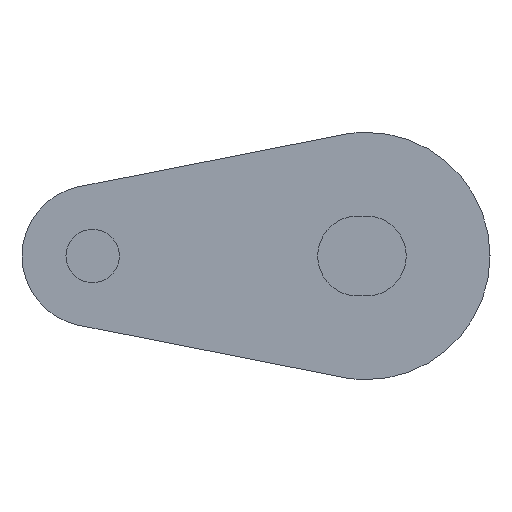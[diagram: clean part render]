
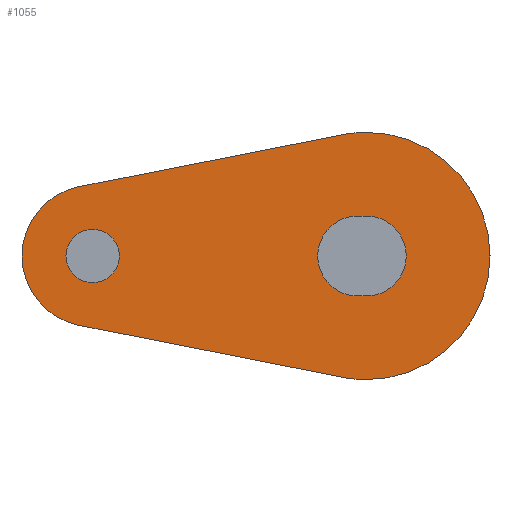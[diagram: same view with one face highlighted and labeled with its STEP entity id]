
A CAD part, left-side view. The second image highlights one B-rep face of the part: STEP entity #1055.
In plain terms, the highlighted planar face has unit normal (-1, 0, 0).
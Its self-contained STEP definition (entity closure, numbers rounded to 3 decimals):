
#21 = VECTOR ( 'NONE', #784, 1000. ) ;
#28 = CIRCLE ( 'NONE', #107, 2.26 ) ;
#32 = LINE ( 'NONE', #785, #21 ) ;
#62 = FACE_OUTER_BOUND ( 'NONE', #403, .T. ) ;
#67 = FACE_BOUND ( 'NONE', #381, .T. ) ;
#68 = FACE_BOUND ( 'NONE', #420, .T. ) ;
#107 = AXIS2_PLACEMENT_3D ( 'NONE', #811, #802, #803 ) ;
#131 = EDGE_CURVE ( 'NONE', #857, #902, #552, .T. ) ;
#134 = AXIS2_PLACEMENT_3D ( 'NONE', #973, #977, #976 ) ;
#137 = EDGE_CURVE ( 'NONE', #912, #904, #546, .T. ) ;
#138 = AXIS2_PLACEMENT_3D ( 'NONE', #894, #878, #877 ) ;
#148 = EDGE_CURVE ( 'NONE', #904, #1028, #537, .T. ) ;
#150 = AXIS2_PLACEMENT_3D ( 'NONE', #1008, #1009, #1010 ) ;
#154 = EDGE_CURVE ( 'NONE', #1028, #1030, #557, .T. ) ;
#170 = EDGE_CURVE ( 'NONE', #888, #912, #515, .T. ) ;
#184 = EDGE_CURVE ( 'NONE', #1030, #925, #499, .T. ) ;
#185 = EDGE_CURVE ( 'NONE', #913, #890, #500, .T. ) ;
#188 = EDGE_CURVE ( 'NONE', #890, #857, #495, .T. ) ;
#201 = EDGE_CURVE ( 'NONE', #946, #908, #481, .T. ) ;
#202 = AXIS2_PLACEMENT_3D ( 'NONE', #934, #948, #947 ) ;
#203 = EDGE_CURVE ( 'NONE', #908, #946, #479, .T. ) ;
#213 = AXIS2_PLACEMENT_3D ( 'NONE', #645, #644, #615 ) ;
#227 = AXIS2_PLACEMENT_3D ( 'NONE', #1003, #1002, #1001 ) ;
#238 = EDGE_CURVE ( 'NONE', #902, #913, #28, .T. ) ;
#244 = AXIS2_PLACEMENT_3D ( 'NONE', #1023, #1005, #1007 ) ;
#252 = EDGE_CURVE ( 'NONE', #925, #888, #32, .T. ) ;
#260 = AXIS2_PLACEMENT_3D ( 'NONE', #1000, #851, #850 ) ;
#338 = ORIENTED_EDGE ( 'NONE', *, *, #131, .T. ) ;
#381 = EDGE_LOOP ( 'NONE', ( #463, #543 ) ) ;
#403 = EDGE_LOOP ( 'NONE', ( #469, #453, #467, #468, #452, #569 ) ) ;
#420 = EDGE_LOOP ( 'NONE', ( #487, #338, #454, #525 ) ) ;
#452 = ORIENTED_EDGE ( 'NONE', *, *, #170, .F. ) ;
#453 = ORIENTED_EDGE ( 'NONE', *, *, #154, .F. ) ;
#454 = ORIENTED_EDGE ( 'NONE', *, *, #238, .T. ) ;
#463 = ORIENTED_EDGE ( 'NONE', *, *, #201, .T. ) ;
#467 = ORIENTED_EDGE ( 'NONE', *, *, #148, .F. ) ;
#468 = ORIENTED_EDGE ( 'NONE', *, *, #137, .F. ) ;
#469 = ORIENTED_EDGE ( 'NONE', *, *, #184, .F. ) ;
#479 = CIRCLE ( 'NONE', #150, 1.51 ) ;
#481 = CIRCLE ( 'NONE', #244, 1.51 ) ;
#487 = ORIENTED_EDGE ( 'NONE', *, *, #188, .T. ) ;
#495 = CIRCLE ( 'NONE', #260, 2.26 ) ;
#499 = CIRCLE ( 'NONE', #227, 4. ) ;
#500 = LINE ( 'NONE', #994, #510 ) ;
#510 = VECTOR ( 'NONE', #999, 1000. ) ;
#515 = CIRCLE ( 'NONE', #134, 7. ) ;
#525 = ORIENTED_EDGE ( 'NONE', *, *, #185, .T. ) ;
#532 = VECTOR ( 'NONE', #954, 1000. ) ;
#537 = CIRCLE ( 'NONE', #202, 7. ) ;
#543 = ORIENTED_EDGE ( 'NONE', *, *, #203, .T. ) ;
#546 = CIRCLE ( 'NONE', #138, 7. ) ;
#552 = LINE ( 'NONE', #860, #554 ) ;
#554 = VECTOR ( 'NONE', #870, 1000. ) ;
#557 = LINE ( 'NONE', #952, #532 ) ;
#569 = ORIENTED_EDGE ( 'NONE', *, *, #252, .F. ) ;
#615 = DIRECTION ( 'NONE',  ( 0., 0., -1. ) ) ;
#644 = DIRECTION ( 'NONE',  ( -1., 0., 0. ) ) ;
#645 = CARTESIAN_POINT ( 'NONE',  ( -157.5, 15.5, 0. ) ) ;
#646 = PLANE ( 'NONE',  #213 ) ;
#724 = CARTESIAN_POINT ( 'NONE',  ( -157.5, 1.355, -6.868 ) ) ;
#726 = CARTESIAN_POINT ( 'NONE',  ( -157.5, 15.5, -1.51 ) ) ;
#733 = CARTESIAN_POINT ( 'NONE',  ( -157.5, 16.274, -3.924 ) ) ;
#735 = CARTESIAN_POINT ( 'NONE',  ( -157.5, 0., 2.26 ) ) ;
#750 = CARTESIAN_POINT ( 'NONE',  ( -157.5, 0.5, -2.26 ) ) ;
#751 = CARTESIAN_POINT ( 'NONE',  ( -157.5, 1.355, 6.868 ) ) ;
#758 = CARTESIAN_POINT ( 'NONE',  ( -157.5, 0., -2.26 ) ) ;
#763 = CARTESIAN_POINT ( 'NONE',  ( -157.5, 16.274, 3.924 ) ) ;
#771 = CARTESIAN_POINT ( 'NONE',  ( -157.5, 0., -7. ) ) ;
#772 = CARTESIAN_POINT ( 'NONE',  ( -157.5, 15.5, 1.51 ) ) ;
#776 = CARTESIAN_POINT ( 'NONE',  ( -157.5, 0., 7. ) ) ;
#782 = CARTESIAN_POINT ( 'NONE',  ( -157.5, 0.5, 2.26 ) ) ;
#784 = DIRECTION ( 'NONE',  ( 0., -0.981, 0.194 ) ) ;
#785 = CARTESIAN_POINT ( 'NONE',  ( -157.5, 16.274, 3.924 ) ) ;
#802 = DIRECTION ( 'NONE',  ( 1., 0., 0. ) ) ;
#803 = DIRECTION ( 'NONE',  ( 0., 0., -1. ) ) ;
#811 = CARTESIAN_POINT ( 'NONE',  ( -157.5, 0., 0. ) ) ;
#850 = DIRECTION ( 'NONE',  ( 0., 0., -1. ) ) ;
#851 = DIRECTION ( 'NONE',  ( 1., 0., 0. ) ) ;
#857 = VERTEX_POINT ( 'NONE', #782 ) ;
#860 = CARTESIAN_POINT ( 'NONE',  ( -157.5, 0.5, 2.26 ) ) ;
#870 = DIRECTION ( 'NONE',  ( 0., -1., 0. ) ) ;
#877 = DIRECTION ( 'NONE',  ( 0., 0., -1. ) ) ;
#878 = DIRECTION ( 'NONE',  ( 1., 0., 0. ) ) ;
#888 = VERTEX_POINT ( 'NONE', #751 ) ;
#890 = VERTEX_POINT ( 'NONE', #750 ) ;
#894 = CARTESIAN_POINT ( 'NONE',  ( -157.5, 0., 0. ) ) ;
#902 = VERTEX_POINT ( 'NONE', #735 ) ;
#904 = VERTEX_POINT ( 'NONE', #771 ) ;
#908 = VERTEX_POINT ( 'NONE', #772 ) ;
#912 = VERTEX_POINT ( 'NONE', #776 ) ;
#913 = VERTEX_POINT ( 'NONE', #758 ) ;
#925 = VERTEX_POINT ( 'NONE', #763 ) ;
#934 = CARTESIAN_POINT ( 'NONE',  ( -157.5, 0., 0. ) ) ;
#946 = VERTEX_POINT ( 'NONE', #726 ) ;
#947 = DIRECTION ( 'NONE',  ( 0., 0., -1. ) ) ;
#948 = DIRECTION ( 'NONE',  ( 1., 0., 0. ) ) ;
#952 = CARTESIAN_POINT ( 'NONE',  ( -157.5, 1.355, -6.868 ) ) ;
#954 = DIRECTION ( 'NONE',  ( 0., 0.981, 0.194 ) ) ;
#973 = CARTESIAN_POINT ( 'NONE',  ( -157.5, 0., 0. ) ) ;
#976 = DIRECTION ( 'NONE',  ( 0., 0., -1. ) ) ;
#977 = DIRECTION ( 'NONE',  ( 1., 0., 0. ) ) ;
#994 = CARTESIAN_POINT ( 'NONE',  ( -157.5, 0.5, -2.26 ) ) ;
#999 = DIRECTION ( 'NONE',  ( 0., 1., 0. ) ) ;
#1000 = CARTESIAN_POINT ( 'NONE',  ( -157.5, 0.5, 0. ) ) ;
#1001 = DIRECTION ( 'NONE',  ( 0., 0., -1. ) ) ;
#1002 = DIRECTION ( 'NONE',  ( 1., 0., 0. ) ) ;
#1003 = CARTESIAN_POINT ( 'NONE',  ( -157.5, 15.5, 0. ) ) ;
#1005 = DIRECTION ( 'NONE',  ( 1., 0., 0. ) ) ;
#1007 = DIRECTION ( 'NONE',  ( 0., 0., -1. ) ) ;
#1008 = CARTESIAN_POINT ( 'NONE',  ( -157.5, 15.5, 0. ) ) ;
#1009 = DIRECTION ( 'NONE',  ( 1., 0., 0. ) ) ;
#1010 = DIRECTION ( 'NONE',  ( 0., 0., -1. ) ) ;
#1023 = CARTESIAN_POINT ( 'NONE',  ( -157.5, 15.5, 0. ) ) ;
#1028 = VERTEX_POINT ( 'NONE', #724 ) ;
#1030 = VERTEX_POINT ( 'NONE', #733 ) ;
#1055 = ADVANCED_FACE ( 'NONE', ( #68, #67, #62 ), #646, .T. ) ;
